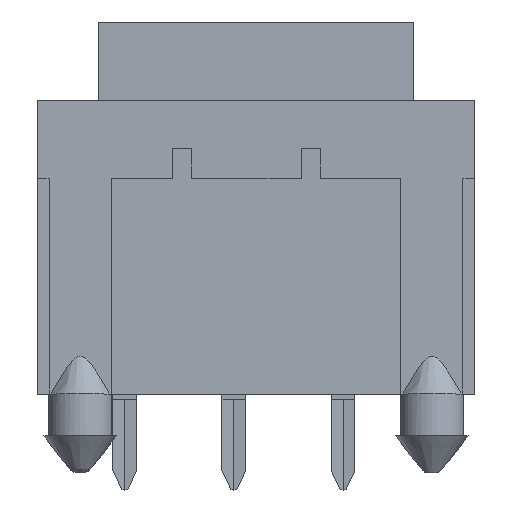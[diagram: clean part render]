
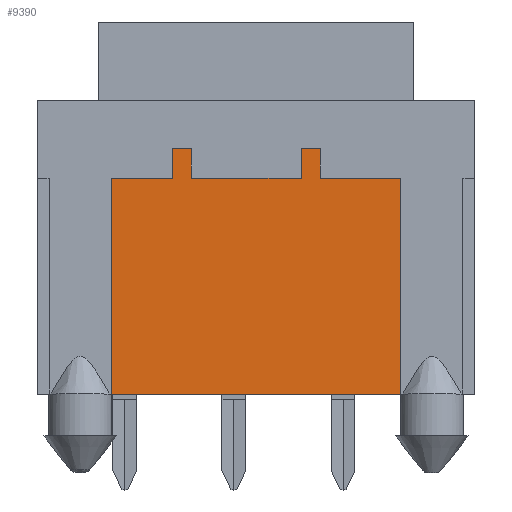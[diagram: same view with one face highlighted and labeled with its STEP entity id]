
A CAD part, top view. The second image highlights one B-rep face of the part: STEP entity #9390.
In plain terms, the highlighted planar face has unit normal (0, 0, 1).
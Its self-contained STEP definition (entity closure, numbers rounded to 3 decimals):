
#123=DIRECTION('',(0.,-1.,0.));
#124=VECTOR('',#123,9.03);
#125=CARTESIAN_POINT('',(-6.065,9.03,-1.3));
#126=LINE('',#125,#124);
#605=DIRECTION('',(-1.,0.,0.));
#606=VECTOR('',#605,3.37);
#607=CARTESIAN_POINT('',(6.065,9.03,-1.3));
#608=LINE('',#607,#606);
#617=DIRECTION('',(0.,1.,0.));
#618=VECTOR('',#617,1.25);
#619=CARTESIAN_POINT('',(2.695,9.03,-1.3));
#620=LINE('',#619,#618);
#625=DIRECTION('',(0.,-1.,0.));
#626=VECTOR('',#625,9.03);
#627=CARTESIAN_POINT('',(6.065,9.03,-1.3));
#628=LINE('',#627,#626);
#629=DIRECTION('',(-1.,0.,0.));
#630=VECTOR('',#629,12.13);
#631=CARTESIAN_POINT('',(6.065,0.,-1.3));
#632=LINE('',#631,#630);
#633=DIRECTION('',(-1.,0.,0.));
#634=VECTOR('',#633,2.56);
#635=CARTESIAN_POINT('',(-3.505,9.03,-1.3));
#636=LINE('',#635,#634);
#653=DIRECTION('',(0.,-1.,0.));
#654=VECTOR('',#653,1.25);
#655=CARTESIAN_POINT('',(-3.505,10.28,-1.3));
#656=LINE('',#655,#654);
#669=DIRECTION('',(-1.,0.,0.));
#670=VECTOR('',#669,0.8);
#671=CARTESIAN_POINT('',(-2.705,10.28,-1.3));
#672=LINE('',#671,#670);
#681=DIRECTION('',(0.,1.,0.));
#682=VECTOR('',#681,1.25);
#683=CARTESIAN_POINT('',(-2.705,9.03,-1.3));
#684=LINE('',#683,#682);
#685=DIRECTION('',(-1.,0.,0.));
#686=VECTOR('',#685,4.6);
#687=CARTESIAN_POINT('',(1.895,9.03,-1.3));
#688=LINE('',#687,#686);
#697=DIRECTION('',(0.,-1.,0.));
#698=VECTOR('',#697,1.25);
#699=CARTESIAN_POINT('',(1.895,10.28,-1.3));
#700=LINE('',#699,#698);
#709=DIRECTION('',(-1.,0.,0.));
#710=VECTOR('',#709,0.8);
#711=CARTESIAN_POINT('',(2.695,10.28,-1.3));
#712=LINE('',#711,#710);
#6671=CARTESIAN_POINT('',(-6.065,0.,-1.3));
#6672=VERTEX_POINT('',#6671);
#6673=CARTESIAN_POINT('',(6.065,0.,-1.3));
#6674=VERTEX_POINT('',#6673);
#6833=CARTESIAN_POINT('',(-3.505,9.03,-1.3));
#6834=CARTESIAN_POINT('',(-6.065,9.03,-1.3));
#6835=VERTEX_POINT('',#6833);
#6836=VERTEX_POINT('',#6834);
#6837=CARTESIAN_POINT('',(-3.505,10.28,-1.3));
#6838=VERTEX_POINT('',#6837);
#6839=CARTESIAN_POINT('',(-2.705,10.28,-1.3));
#6840=VERTEX_POINT('',#6839);
#6841=CARTESIAN_POINT('',(-2.705,9.03,-1.3));
#6842=VERTEX_POINT('',#6841);
#6843=CARTESIAN_POINT('',(1.895,9.03,-1.3));
#6844=VERTEX_POINT('',#6843);
#6845=CARTESIAN_POINT('',(1.895,10.28,-1.3));
#6846=VERTEX_POINT('',#6845);
#6847=CARTESIAN_POINT('',(2.695,10.28,-1.3));
#6848=VERTEX_POINT('',#6847);
#6849=CARTESIAN_POINT('',(2.695,9.03,-1.3));
#6850=VERTEX_POINT('',#6849);
#6851=CARTESIAN_POINT('',(6.065,9.03,-1.3));
#6852=VERTEX_POINT('',#6851);
#9364=CARTESIAN_POINT('',(0.,5.14,-1.3));
#9365=DIRECTION('',(0.,0.,1.));
#9366=DIRECTION('',(1.,0.,0.));
#9367=AXIS2_PLACEMENT_3D('',#9364,#9365,#9366);
#9368=PLANE('',#9367);
#9370=ORIENTED_EDGE('',*,*,#9369,.F.);
#9372=ORIENTED_EDGE('',*,*,#9371,.F.);
#9374=ORIENTED_EDGE('',*,*,#9373,.F.);
#9376=ORIENTED_EDGE('',*,*,#9375,.F.);
#9378=ORIENTED_EDGE('',*,*,#9377,.F.);
#9380=ORIENTED_EDGE('',*,*,#9379,.F.);
#9382=ORIENTED_EDGE('',*,*,#9381,.F.);
#9383=ORIENTED_EDGE('',*,*,#9357,.F.);
#9384=ORIENTED_EDGE('',*,*,#9345,.F.);
#9385=ORIENTED_EDGE('',*,*,#9102,.T.);
#9386=ORIENTED_EDGE('',*,*,#8865,.T.);
#9387=ORIENTED_EDGE('',*,*,#8710,.F.);
#9388=EDGE_LOOP('',(#9370,#9372,#9374,#9376,#9378,#9380,#9382,#9383,#9384,#9385,
#9386,#9387));
#9389=FACE_OUTER_BOUND('',#9388,.F.);
#9390=ADVANCED_FACE('',(#9389),#9368,.T.);
#8710=EDGE_CURVE('',#6836,#6672,#126,.T.);
#8865=EDGE_CURVE('',#6674,#6672,#632,.T.);
#9102=EDGE_CURVE('',#6852,#6674,#628,.T.);
#9345=EDGE_CURVE('',#6852,#6850,#608,.T.);
#9357=EDGE_CURVE('',#6850,#6848,#620,.T.);
#9369=EDGE_CURVE('',#6835,#6836,#636,.T.);
#9371=EDGE_CURVE('',#6838,#6835,#656,.T.);
#9373=EDGE_CURVE('',#6840,#6838,#672,.T.);
#9375=EDGE_CURVE('',#6842,#6840,#684,.T.);
#9377=EDGE_CURVE('',#6844,#6842,#688,.T.);
#9379=EDGE_CURVE('',#6846,#6844,#700,.T.);
#9381=EDGE_CURVE('',#6848,#6846,#712,.T.);
